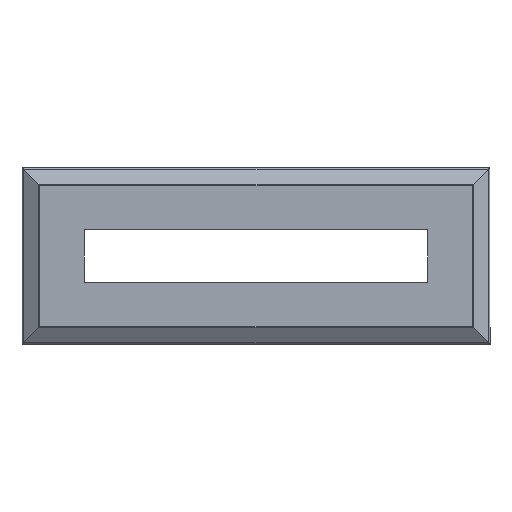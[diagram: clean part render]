
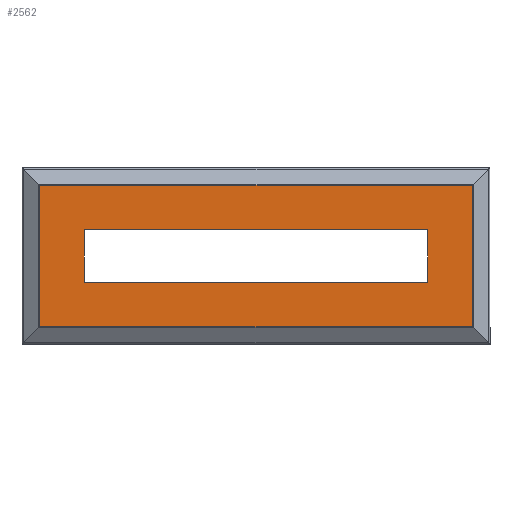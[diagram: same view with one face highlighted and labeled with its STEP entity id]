
A CAD part, front view. The second image highlights one B-rep face of the part: STEP entity #2562.
In plain terms, the highlighted planar face has unit normal (0, -1, 0).
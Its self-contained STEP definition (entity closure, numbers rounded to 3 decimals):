
#903=CARTESIAN_POINT('',(-37.55,-33.5,-12.3));
#904=VERTEX_POINT('',#903);
#905=CARTESIAN_POINT('',(37.55,-33.5,-12.3));
#906=VERTEX_POINT('',#905);
#907=CARTESIAN_POINT('',(-37.55,-33.5,-12.3));
#908=DIRECTION('',(1.0,0.0,0.0));
#909=VECTOR('',#908,75.1);
#910=LINE('',#907,#909);
#911=EDGE_CURVE('',#904,#906,#910,.T.);
#1485=CARTESIAN_POINT('',(-37.55,-33.5,12.3));
#1486=VERTEX_POINT('',#1485);
#1487=CARTESIAN_POINT('',(-37.55,-33.5,12.3));
#1488=DIRECTION('',(0.0,0.0,-1.0));
#1489=VECTOR('',#1488,24.6);
#1490=LINE('',#1487,#1489);
#1491=EDGE_CURVE('',#1486,#904,#1490,.T.);
#1966=CARTESIAN_POINT('',(37.55,-33.5,12.3));
#1967=VERTEX_POINT('',#1966);
#1968=CARTESIAN_POINT('',(37.55,-33.5,12.3));
#1969=DIRECTION('',(-1.0,0.0,0.0));
#1970=VECTOR('',#1969,75.1);
#1971=LINE('',#1968,#1970);
#1972=EDGE_CURVE('',#1967,#1486,#1971,.T.);
#2325=CARTESIAN_POINT('',(37.55,-33.5,-12.3));
#2326=DIRECTION('',(0.0,0.0,1.0));
#2327=VECTOR('',#2326,24.6);
#2328=LINE('',#2325,#2327);
#2329=EDGE_CURVE('',#906,#1967,#2328,.T.);
#2483=CARTESIAN_POINT('',(-29.8,-33.5,-4.55));
#2484=VERTEX_POINT('',#2483);
#2491=CARTESIAN_POINT('',(29.8,-33.5,-4.55));
#2492=VERTEX_POINT('',#2491);
#2493=CARTESIAN_POINT('',(-29.8,-33.5,-4.55));
#2494=DIRECTION('',(1.0,0.0,0.0));
#2495=VECTOR('',#2494,59.6);
#2496=LINE('',#2493,#2495);
#2497=EDGE_CURVE('',#2484,#2492,#2496,.T.);
#2516=CARTESIAN_POINT('',(-29.8,-33.5,4.55));
#2517=VERTEX_POINT('',#2516);
#2524=CARTESIAN_POINT('',(-29.8,-33.5,4.55));
#2525=DIRECTION('',(0.0,0.0,-1.0));
#2526=VECTOR('',#2525,9.1);
#2527=LINE('',#2524,#2526);
#2528=EDGE_CURVE('',#2517,#2484,#2527,.T.);
#2533=CARTESIAN_POINT('',(34.25,-33.5,10.65));
#2534=DIRECTION('',(0.0,-1.0,0.0));
#2535=DIRECTION('',(0.0,0.0,-1.0));
#2536=AXIS2_PLACEMENT_3D('',#2533,#2534,#2535);
#2537=PLANE('',#2536);
#2538=ORIENTED_EDGE('',*,*,#2329,.T.);
#2539=ORIENTED_EDGE('',*,*,#1972,.T.);
#2540=ORIENTED_EDGE('',*,*,#1491,.T.);
#2541=ORIENTED_EDGE('',*,*,#911,.T.);
#2542=EDGE_LOOP('',(#2538,#2539,#2540,#2541));
#2543=FACE_OUTER_BOUND('',#2542,.T.);
#2544=CARTESIAN_POINT('',(29.8,-33.5,4.55));
#2545=VERTEX_POINT('',#2544);
#2546=CARTESIAN_POINT('',(29.8,-33.5,-4.55));
#2547=DIRECTION('',(0.0,0.0,1.0));
#2548=VECTOR('',#2547,9.1);
#2549=LINE('',#2546,#2548);
#2550=EDGE_CURVE('',#2492,#2545,#2549,.T.);
#2551=ORIENTED_EDGE('',*,*,#2550,.F.);
#2552=ORIENTED_EDGE('',*,*,#2497,.F.);
#2553=ORIENTED_EDGE('',*,*,#2528,.F.);
#2554=CARTESIAN_POINT('',(29.8,-33.5,4.55));
#2555=DIRECTION('',(-1.0,0.0,0.0));
#2556=VECTOR('',#2555,59.6);
#2557=LINE('',#2554,#2556);
#2558=EDGE_CURVE('',#2545,#2517,#2557,.T.);
#2559=ORIENTED_EDGE('',*,*,#2558,.F.);
#2560=EDGE_LOOP('',(#2551,#2552,#2553,#2559));
#2561=FACE_BOUND('',#2560,.T.);
#2562=ADVANCED_FACE('',(#2543,#2561),#2537,.T.);
